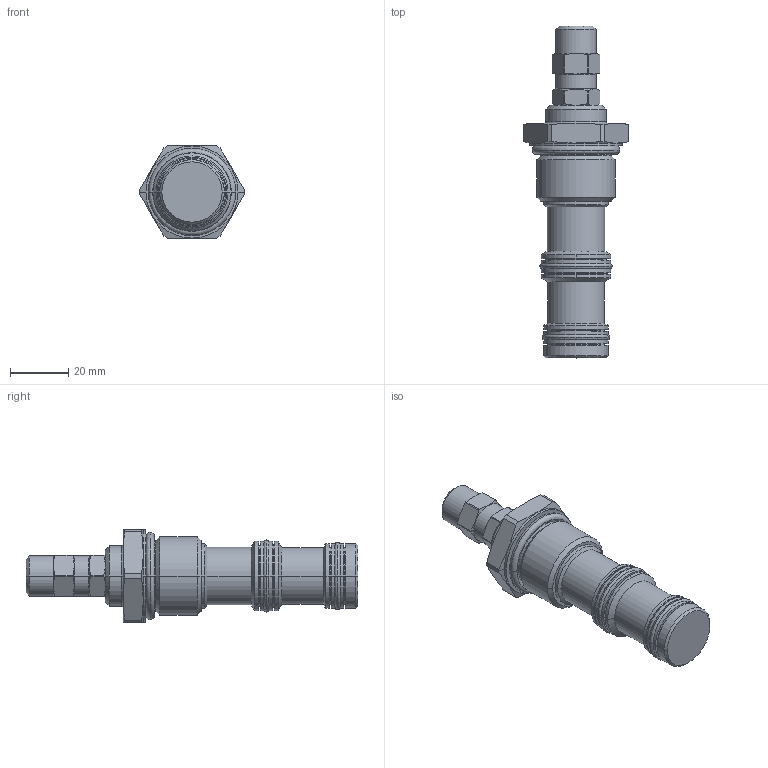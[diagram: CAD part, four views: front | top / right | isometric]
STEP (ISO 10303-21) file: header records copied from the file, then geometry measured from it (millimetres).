
FILE_DESCRIPTION((''),'2;1');
FILE_NAME('FR12-33C','2009-02-03T',('jcs'),(''),'PRO/ENGINEER BY PARAMETRIC TECHNOLOGY CORPORATION, 2008010','PRO/ENGINEER BY PARAMETRIC TECHNOLOGY CORPORATION, 2008010','');
FILE_SCHEMA(('CONFIG_CONTROL_DESIGN'));
Length unit declared in the file: inch
Products named in the file (1): FR12-33C
Bounding box: 35.81 x 113.62 x 31.75 mm (x, y, z)
Volume: 42142.6 mm3; surface area: 12109.6 mm2
Topology: 4 solids, 4 shells, 187 faces, 422 edges, 250 vertices
Faces by surface type: cylinder 64, cone 44, plane 33, revolution 24, torus 22
Entity records: 6024 total; most frequent: CARTESIAN_POINT 1763, DIRECTION 932, ORIENTED_EDGE 844, EDGE_CURVE 422, AXIS2_PLACEMENT_3D 393, VERTEX_POINT 250, CIRCLE 230, EDGE_LOOP 200
